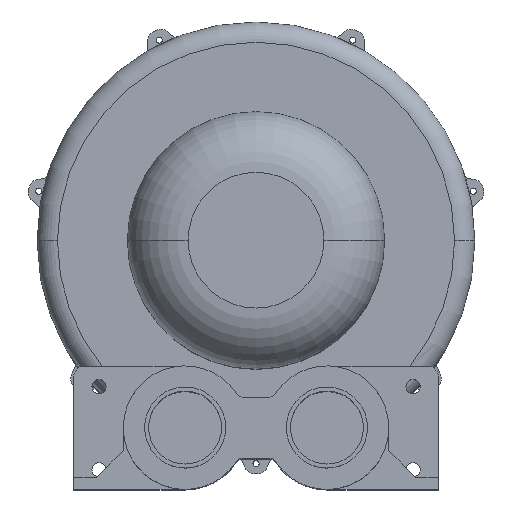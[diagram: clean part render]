
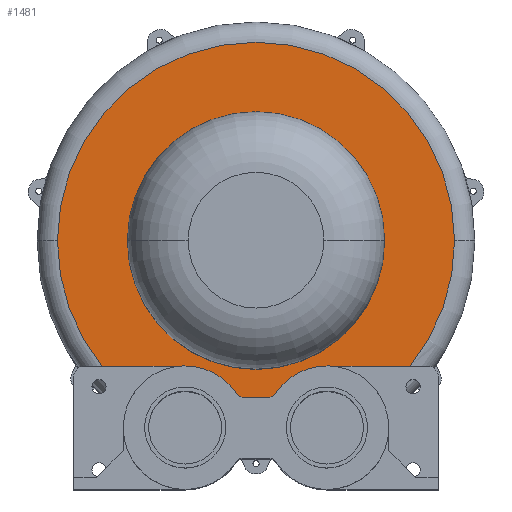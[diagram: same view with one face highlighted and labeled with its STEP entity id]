
A CAD part, top view. The second image highlights one B-rep face of the part: STEP entity #1481.
In plain terms, the highlighted planar face has unit normal (0, 0, 1).
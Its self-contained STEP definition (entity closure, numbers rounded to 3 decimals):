
#42 = DIRECTION ( 'NONE',  ( -1., 0., 0. ) ) ;
#96 = EDGE_CURVE ( 'NONE', #1052, #1275, #4302, .T. ) ;
#168 = CARTESIAN_POINT ( 'NONE',  ( -35., -62., 32.75 ) ) ;
#243 = VERTEX_POINT ( 'NONE', #168 ) ;
#244 = ORIENTED_EDGE ( 'NONE', *, *, #4436, .F. ) ;
#279 = DIRECTION ( 'NONE',  ( -1., 0., 0. ) ) ;
#305 = AXIS2_PLACEMENT_3D ( 'NONE', #612, #3085, #964 ) ;
#388 = ORIENTED_EDGE ( 'NONE', *, *, #4212, .F. ) ;
#393 = CARTESIAN_POINT ( 'NONE',  ( -6.203, -77.5, 32.75 ) ) ;
#436 = VERTEX_POINT ( 'NONE', #3297 ) ;
#471 = CIRCLE ( 'NONE', #305, 4. ) ;
#481 = CARTESIAN_POINT ( 'NONE',  ( -6.203, -73.5, 32.75 ) ) ;
#558 = VERTEX_POINT ( 'NONE', #1609 ) ;
#598 = AXIS2_PLACEMENT_3D ( 'NONE', #3014, #900, #3362 ) ;
#612 = CARTESIAN_POINT ( 'NONE',  ( 6.203, -73.5, 32.75 ) ) ;
#682 = EDGE_LOOP ( 'NONE', ( #2793, #3826, #1102, #1738, #1365, #2614, #3005, #388, #4129, #244 ) ) ;
#696 = VERTEX_POINT ( 'NONE', #2747 ) ;
#711 = AXIS2_PLACEMENT_3D ( 'NONE', #3678, #1569, #4022 ) ;
#758 = LINE ( 'NONE', #393, #2526 ) ;
#760 = AXIS2_PLACEMENT_3D ( 'NONE', #1861, #4280, #2223 ) ;
#793 = DIRECTION ( 'NONE',  ( 0., 0., 1. ) ) ;
#823 = AXIS2_PLACEMENT_3D ( 'NONE', #1827, #4252, #2183 ) ;
#848 = DIRECTION ( 'NONE',  ( -1., 0., 0. ) ) ;
#900 = DIRECTION ( 'NONE',  ( 0., 0., 1. ) ) ;
#964 = DIRECTION ( 'NONE',  ( 1., 0., 0. ) ) ;
#1052 = VERTEX_POINT ( 'NONE', #4523 ) ;
#1072 = VECTOR ( 'NONE', #2773, 1000. ) ;
#1102 = ORIENTED_EDGE ( 'NONE', *, *, #2212, .T. ) ;
#1122 = CARTESIAN_POINT ( 'NONE',  ( -6.203, -77.5, 32.75 ) ) ;
#1207 = CIRCLE ( 'NONE', #598, 98. ) ;
#1275 = VERTEX_POINT ( 'NONE', #3681 ) ;
#1305 = CIRCLE ( 'NONE', #4525, 63.5 ) ;
#1316 = CIRCLE ( 'NONE', #711, 98. ) ;
#1355 = CIRCLE ( 'NONE', #4228, 4. ) ;
#1365 = ORIENTED_EDGE ( 'NONE', *, *, #2925, .T. ) ;
#1472 = CARTESIAN_POINT ( 'NONE',  ( -75.895, -62., 32.75 ) ) ;
#1481 = ADVANCED_FACE ( 'NONE', ( #1971, #3825 ), #3899, .T. ) ;
#1516 = AXIS2_PLACEMENT_3D ( 'NONE', #1852, #4275, #2221 ) ;
#1521 = VERTEX_POINT ( 'NONE', #1472 ) ;
#1569 = DIRECTION ( 'NONE',  ( 0., 0., 1. ) ) ;
#1583 = DIRECTION ( 'NONE',  ( 0., 0., 1. ) ) ;
#1589 = ORIENTED_EDGE ( 'NONE', *, *, #96, .F. ) ;
#1609 = CARTESIAN_POINT ( 'NONE',  ( -98., 0., 32.75 ) ) ;
#1622 = CARTESIAN_POINT ( 'NONE',  ( -9.542, -75.703, 32.75 ) ) ;
#1630 = VERTEX_POINT ( 'NONE', #1122 ) ;
#1738 = ORIENTED_EDGE ( 'NONE', *, *, #2874, .T. ) ;
#1748 = CIRCLE ( 'NONE', #823, 30.5 ) ;
#1801 = CARTESIAN_POINT ( 'NONE',  ( 0., 0., 32.75 ) ) ;
#1827 = CARTESIAN_POINT ( 'NONE',  ( -35., -92.5, 32.75 ) ) ;
#1852 = CARTESIAN_POINT ( 'NONE',  ( 35., -92.5, 32.75 ) ) ;
#1861 = CARTESIAN_POINT ( 'NONE',  ( 0., 0., 32.75 ) ) ;
#1971 = FACE_BOUND ( 'NONE', #3496, .T. ) ;
#2009 = CARTESIAN_POINT ( 'NONE',  ( 75.895, -62., 32.75 ) ) ;
#2078 = CIRCLE ( 'NONE', #2481, 98. ) ;
#2160 = DIRECTION ( 'NONE',  ( 1., 0., 0. ) ) ;
#2183 = DIRECTION ( 'NONE',  ( -1., 0., 0. ) ) ;
#2212 = EDGE_CURVE ( 'NONE', #3461, #436, #2078, .T. ) ;
#2221 = DIRECTION ( 'NONE',  ( 1., 0., 0. ) ) ;
#2223 = DIRECTION ( 'NONE',  ( 1., 0., 0. ) ) ;
#2402 = CARTESIAN_POINT ( 'NONE',  ( -35., -62., 32.75 ) ) ;
#2418 = ORIENTED_EDGE ( 'NONE', *, *, #3969, .F. ) ;
#2466 = VERTEX_POINT ( 'NONE', #1622 ) ;
#2481 = AXIS2_PLACEMENT_3D ( 'NONE', #2906, #793, #3265 ) ;
#2526 = VECTOR ( 'NONE', #42, 1000. ) ;
#2614 = ORIENTED_EDGE ( 'NONE', *, *, #3537, .F. ) ;
#2747 = CARTESIAN_POINT ( 'NONE',  ( 6.203, -77.5, 32.75 ) ) ;
#2770 = VECTOR ( 'NONE', #279, 1000. ) ;
#2773 = DIRECTION ( 'NONE',  ( -1., 0., 0. ) ) ;
#2793 = ORIENTED_EDGE ( 'NONE', *, *, #3841, .F. ) ;
#2874 = EDGE_CURVE ( 'NONE', #436, #558, #1316, .T. ) ;
#2906 = CARTESIAN_POINT ( 'NONE',  ( 0., 0., 32.75 ) ) ;
#2925 = EDGE_CURVE ( 'NONE', #558, #1521, #1207, .T. ) ;
#2958 = DIRECTION ( 'NONE',  ( 0., 0., -1. ) ) ;
#3005 = ORIENTED_EDGE ( 'NONE', *, *, #3771, .F. ) ;
#3014 = CARTESIAN_POINT ( 'NONE',  ( 0., 0., 32.75 ) ) ;
#3085 = DIRECTION ( 'NONE',  ( 0., 0., -1. ) ) ;
#3181 = LINE ( 'NONE', #4451, #1072 ) ;
#3265 = DIRECTION ( 'NONE',  ( 1., 0., 0. ) ) ;
#3297 = CARTESIAN_POINT ( 'NONE',  ( 98., 0., 32.75 ) ) ;
#3362 = DIRECTION ( 'NONE',  ( 1., 0., 0. ) ) ;
#3461 = VERTEX_POINT ( 'NONE', #2009 ) ;
#3496 = EDGE_LOOP ( 'NONE', ( #2418, #1589 ) ) ;
#3537 = EDGE_CURVE ( 'NONE', #243, #1521, #3688, .T. ) ;
#3651 = CARTESIAN_POINT ( 'NONE',  ( 35., -62., 32.75 ) ) ;
#3678 = CARTESIAN_POINT ( 'NONE',  ( 0., 0., 32.75 ) ) ;
#3681 = CARTESIAN_POINT ( 'NONE',  ( -63.5, 0., 32.75 ) ) ;
#3688 = LINE ( 'NONE', #2402, #2770 ) ;
#3699 = CARTESIAN_POINT ( 'NONE',  ( 0., 0., 32.75 ) ) ;
#3771 = EDGE_CURVE ( 'NONE', #2466, #243, #1748, .T. ) ;
#3825 = FACE_OUTER_BOUND ( 'NONE', #682, .T. ) ;
#3826 = ORIENTED_EDGE ( 'NONE', *, *, #4535, .F. ) ;
#3841 = EDGE_CURVE ( 'NONE', #4230, #4496, #4407, .T. ) ;
#3899 = PLANE ( 'NONE',  #4309 ) ;
#3969 = EDGE_CURVE ( 'NONE', #1275, #1052, #1305, .T. ) ;
#4022 = DIRECTION ( 'NONE',  ( 1., 0., 0. ) ) ;
#4034 = DIRECTION ( 'NONE',  ( 1., 0., 0. ) ) ;
#4116 = EDGE_CURVE ( 'NONE', #696, #1630, #758, .T. ) ;
#4129 = ORIENTED_EDGE ( 'NONE', *, *, #4116, .F. ) ;
#4212 = EDGE_CURVE ( 'NONE', #1630, #2466, #1355, .T. ) ;
#4228 = AXIS2_PLACEMENT_3D ( 'NONE', #481, #2958, #848 ) ;
#4229 = DIRECTION ( 'NONE',  ( 0., 0., 1. ) ) ;
#4230 = VERTEX_POINT ( 'NONE', #3651 ) ;
#4252 = DIRECTION ( 'NONE',  ( 0., 0., 1. ) ) ;
#4275 = DIRECTION ( 'NONE',  ( 0., 0., 1. ) ) ;
#4280 = DIRECTION ( 'NONE',  ( 0., 0., 1. ) ) ;
#4302 = CIRCLE ( 'NONE', #760, 63.5 ) ;
#4309 = AXIS2_PLACEMENT_3D ( 'NONE', #1801, #4229, #2160 ) ;
#4407 = CIRCLE ( 'NONE', #1516, 30.5 ) ;
#4425 = CARTESIAN_POINT ( 'NONE',  ( 9.542, -75.703, 32.75 ) ) ;
#4436 = EDGE_CURVE ( 'NONE', #4496, #696, #471, .T. ) ;
#4451 = CARTESIAN_POINT ( 'NONE',  ( 85., -62., 32.75 ) ) ;
#4496 = VERTEX_POINT ( 'NONE', #4425 ) ;
#4523 = CARTESIAN_POINT ( 'NONE',  ( 63.5, 0., 32.75 ) ) ;
#4525 = AXIS2_PLACEMENT_3D ( 'NONE', #3699, #1583, #4034 ) ;
#4535 = EDGE_CURVE ( 'NONE', #3461, #4230, #3181, .T. ) ;
